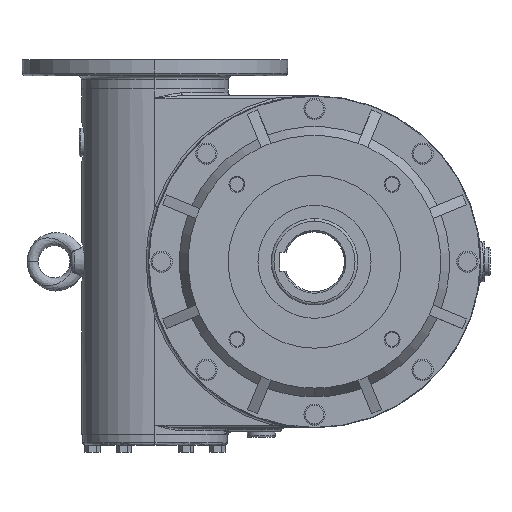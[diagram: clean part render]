
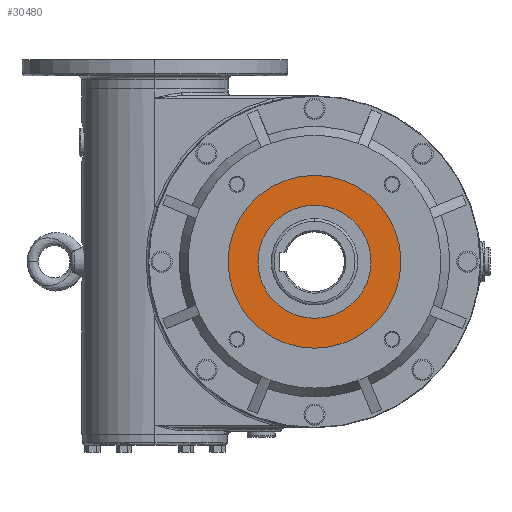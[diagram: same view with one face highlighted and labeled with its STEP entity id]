
A CAD part, left-side view. The second image highlights one B-rep face of the part: STEP entity #30480.
In plain terms, the highlighted planar face has unit normal (-1, 0, 0) as drawn and (0, 0, 1) by its records, which use the part's own axes.
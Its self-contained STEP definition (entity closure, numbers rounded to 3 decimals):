
#13723 = CARTESIAN_POINT ( 'NONE',  ( 42.5, 0., 26. ) ) ;
#13724 = DIRECTION ( 'NONE',  ( 1., 0., 0. ) ) ;
#13725 = DIRECTION ( 'NONE',  ( 0., 0., 1. ) ) ;
#13726 = CARTESIAN_POINT ( 'NONE',  ( 0., 0., 26. ) ) ;
#13727 = AXIS2_PLACEMENT_3D ( 'NONE', #13726, #13725, #13724 ) ;
#13728 = CIRCLE ( 'NONE', #13727, 42.5 ) ;
#13729 = CARTESIAN_POINT ( 'NONE',  ( -42.5, 0., 26. ) ) ;
#13753 = CARTESIAN_POINT ( 'NONE',  ( 65., 0., 26. ) ) ;
#13754 = DIRECTION ( 'NONE',  ( 1., 0., 0. ) ) ;
#13755 = DIRECTION ( 'NONE',  ( 0., 0., 1. ) ) ;
#13756 = CARTESIAN_POINT ( 'NONE',  ( 0., 0., 26. ) ) ;
#13757 = AXIS2_PLACEMENT_3D ( 'NONE', #13756, #13755, #13754 ) ;
#13758 = CIRCLE ( 'NONE', #13757, 65. ) ;
#13759 = CARTESIAN_POINT ( 'NONE',  ( -65., 0., 26. ) ) ;
#14197 = DIRECTION ( 'NONE',  ( 1., 0., 0. ) ) ;
#14198 = DIRECTION ( 'NONE',  ( 0., 0., 1. ) ) ;
#14199 = CARTESIAN_POINT ( 'NONE',  ( 0., 0., 26. ) ) ;
#14200 = AXIS2_PLACEMENT_3D ( 'NONE', #14199, #14198, #14197 ) ;
#14201 = CIRCLE ( 'NONE', #14200, 65. ) ;
#14202 = DIRECTION ( 'NONE',  ( 1., 0., 0. ) ) ;
#14203 = DIRECTION ( 'NONE',  ( 0., 0., 1. ) ) ;
#14204 = CARTESIAN_POINT ( 'NONE',  ( 0., 16.327, 26. ) ) ;
#14205 = AXIS2_PLACEMENT_3D ( 'NONE', #14204, #14203, #14202 ) ;
#14206 = PLANE ( 'NONE',  #14205 ) ;
#14207 = FACE_BOUND ( 'NONE', #30485, .T. ) ;
#14208 = FACE_OUTER_BOUND ( 'NONE', #30481, .T. ) ;
#14209 = DIRECTION ( 'NONE',  ( 1., 0., 0. ) ) ;
#14210 = DIRECTION ( 'NONE',  ( 0., 0., 1. ) ) ;
#14211 = CARTESIAN_POINT ( 'NONE',  ( 0., 0., 26. ) ) ;
#14212 = AXIS2_PLACEMENT_3D ( 'NONE', #14211, #14210, #14209 ) ;
#14213 = CIRCLE ( 'NONE', #14212, 42.5 ) ;
#30214 = VERTEX_POINT ( 'NONE', #13729 ) ;
#30216 = EDGE_CURVE ( 'NONE', #30214, #30217, #13728, .T. ) ;
#30217 = VERTEX_POINT ( 'NONE', #13723 ) ;
#30231 = VERTEX_POINT ( 'NONE', #13759 ) ;
#30233 = EDGE_CURVE ( 'NONE', #30234, #30231, #13758, .T. ) ;
#30234 = VERTEX_POINT ( 'NONE', #13753 ) ;
#30479 = EDGE_CURVE ( 'NONE', #30217, #30214, #14213, .T. ) ;
#30480 = ADVANCED_FACE ( 'NONE', ( #14208, #14207 ), #14206, .T. ) ;
#30481 = EDGE_LOOP ( 'NONE', ( #30482, #30483 ) ) ;
#30482 = ORIENTED_EDGE ( 'NONE', *, *, #30233, .T. ) ;
#30483 = ORIENTED_EDGE ( 'NONE', *, *, #30484, .T. ) ;
#30484 = EDGE_CURVE ( 'NONE', #30231, #30234, #14201, .T. ) ;
#30485 = EDGE_LOOP ( 'NONE', ( #30486, #30487 ) ) ;
#30486 = ORIENTED_EDGE ( 'NONE', *, *, #30479, .F. ) ;
#30487 = ORIENTED_EDGE ( 'NONE', *, *, #30216, .F. ) ;
